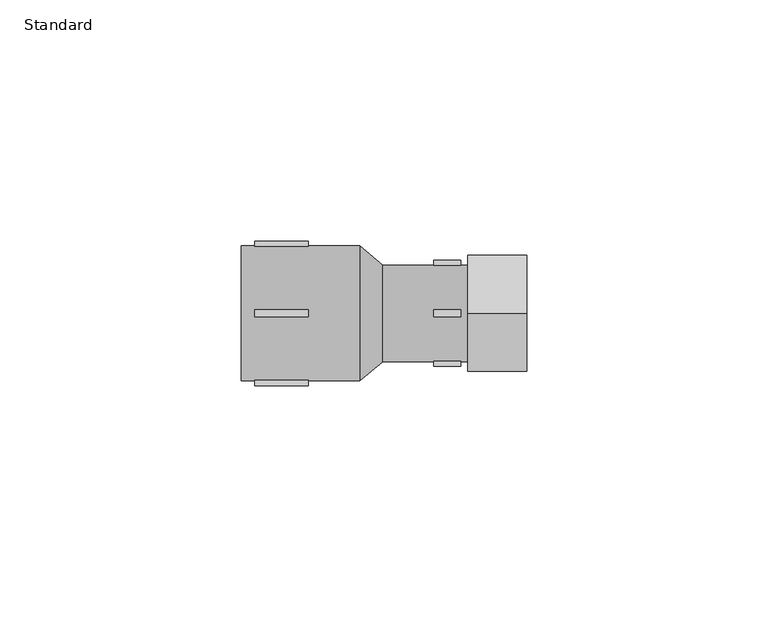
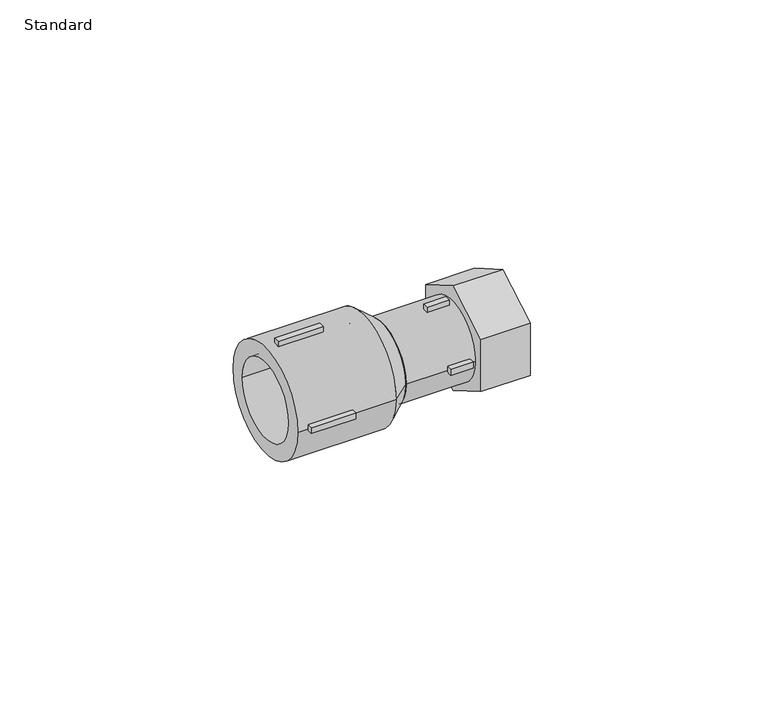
"""IFC4 building model written with IfcOpenShell, lengths in millimetres: pipe fitting geometry, EGB_VASEN_ PPR_Enlace tuerca loca : Standard."""

import ifcopenshell
import ifcopenshell.guid

model = None  # the IFC model being written
_history = None  # IfcOwnerHistory: only IFC2X3 demands one
_inside = {}  # id of a spatial element -> (the spatial element, [elements in it])
_under = {}  # id of a project, library or spatial element -> (it, [spatial elements below it])
_declared = {}  # id of a project -> (the project, [libraries it declares])
_typed = {}  # id of a type object -> (the type object, [elements of that type])
_made_of = {}  # id of a material, layer set ... -> (it, [elements and type objects made of it])


def new_model(schema):
    """Start an empty IFC model of exactly this schema.

    Asked for "IFC4X3", IfcOpenShell would pick the latest addendum, in which some entities
    have other attributes; the version numbers below select the first issue.
    IFC2X3 requires an IfcOwnerHistory on every rooted entity: one is made here for all.
    """
    global model, _history
    if schema == "IFC4X3":
        model = ifcopenshell.file(schema_version=(4, 3, 0, 0))
    else:
        model = ifcopenshell.file(schema=schema)
    _inside.clear()
    _under.clear()
    _declared.clear()
    _typed.clear()
    _made_of.clear()
    _history = None
    if model.schema == "IFC2X3":
        org = make("IfcOrganization", Name="unknown")
        user = make(
            "IfcPersonAndOrganization",
            ThePerson=make("IfcPerson", FamilyName="unknown"),
            TheOrganization=org,
        )
        app = make(
            "IfcApplication",
            ApplicationDeveloper=org,
            Version="unknown",
            ApplicationFullName="unknown",
            ApplicationIdentifier="unknown",
        )
        _history = make(
            "IfcOwnerHistory",
            OwningUser=user,
            OwningApplication=app,
            ChangeAction="ADDED",
            CreationDate=0,
        )
    return model


def make(cls, **values):
    """One entity of the class cls with the attributes given. An attribute that is None is left unset."""
    return model.create_entity(
        cls, **{name: value for name, value in values.items() if value is not None}
    )


def rooted(cls, **values):
    """An entity with a GlobalId (a new one), such as an element, a storey or a relation."""
    return make(cls, GlobalId=ifcopenshell.guid.new(), OwnerHistory=_history, **values)


def si_unit(unit_type, name, prefix=None):
    """IfcSIUnit, for example si_unit("LENGTHUNIT", "METRE", prefix="MILLI")."""
    return make("IfcSIUnit", UnitType=unit_type, Prefix=prefix, Name=name)


def assignment(units):
    """IfcUnitAssignment: the units of a project."""
    return None if units is None else make("IfcUnitAssignment", Units=units)


def point(xyz):
    """IfcCartesianPoint."""
    return None if xyz is None else make("IfcCartesianPoint", Coordinates=xyz)


def direction(xyz):
    """IfcDirection."""
    return None if xyz is None else make("IfcDirection", DirectionRatios=xyz)


def frame(location, z_axis=None, x_axis=None):
    """IfcAxis2Placement3D, a coordinate frame: its origin and axes. An axis left out is left unset."""
    return make(
        "IfcAxis2Placement3D",
        Location=point(location),
        Axis=direction(z_axis),
        RefDirection=direction(x_axis),
    )


def frame_2d(location, x_axis=None):
    """IfcAxis2Placement2D, a coordinate frame in the plane: its origin and x axis."""
    return make(
        "IfcAxis2Placement2D", Location=point(location), RefDirection=direction(x_axis)
    )


def origin():
    """The frame at (0, 0, 0) with its axes left unset."""
    return frame((0.0, 0.0, 0.0))


def origin_2d():
    """The frame at (0, 0) in the plane with its x axis left unset."""
    return frame_2d((0.0, 0.0))


def place(relative_to, where):
    """IfcLocalPlacement: puts the frame where relative to a parent placement (None: the world)."""
    return make(
        "IfcLocalPlacement", PlacementRelTo=relative_to, RelativePlacement=where
    )


def context(
    kind, dimensions, precision=None, world=None, true_north=None, identifier=None
):
    """IfcGeometricRepresentationContext, for example the 3D "Model" context."""
    return make(
        "IfcGeometricRepresentationContext",
        ContextIdentifier=identifier,
        ContextType=kind,
        CoordinateSpaceDimension=dimensions,
        Precision=precision,
        WorldCoordinateSystem=world,
        TrueNorth=true_north,
    )


def project(units=None, contexts=None):
    """IfcProject with its units and contexts."""
    return rooted(
        "IfcProject",
        Name="project",
        RepresentationContexts=contexts,
        UnitsInContext=assignment(units),
    )


def spatial(cls, under=None, at=None, **own):
    """A site, building, storey or space (cls), placed at a placement, below another one or the project."""
    s = rooted(cls, ObjectPlacement=at, **own)
    if under is not None:
        _under.setdefault(under.id(), (under, []))[1].append(s)
    return s


def polyline(points):
    """IfcPolyline through the points."""
    return make("IfcPolyline", Points=[point(p) for p in points])


def circle_curve(where, radius):
    """IfcCircle in the frame where."""
    return make("IfcCircle", Position=where, Radius=radius)


def trimmed(basis, trim1, trim2, sense, master):
    """IfcTrimmedCurve: the piece of a basis curve between two trims."""
    return make(
        "IfcTrimmedCurve",
        BasisCurve=basis,
        Trim1=trim1,
        Trim2=trim2,
        SenseAgreement=sense,
        MasterRepresentation=master,
    )


def segment(curve, same_sense, transition):
    """IfcCompositeCurveSegment."""
    return make(
        "IfcCompositeCurveSegment",
        Transition=transition,
        SameSense=same_sense,
        ParentCurve=curve,
    )


def composite_curve(segments, self_intersect=None):
    """IfcCompositeCurve: segments joined end to end."""
    return make("IfcCompositeCurve", Segments=segments, SelfIntersect=self_intersect)


def outline(outer, holes=None, kind="AREA"):
    """IfcArbitraryClosedProfileDef: a profile drawn as a closed curve; with holes, ...WithVoids."""
    if holes is None:
        return make("IfcArbitraryClosedProfileDef", ProfileType=kind, OuterCurve=outer)
    return make(
        "IfcArbitraryProfileDefWithVoids",
        ProfileType=kind,
        OuterCurve=outer,
        InnerCurves=holes,
    )


def extrude(swept, where, along, depth):
    """IfcExtrudedAreaSolid: the profile swept, set in the frame where, extruded along a direction by depth."""
    return make(
        "IfcExtrudedAreaSolid",
        SweptArea=swept,
        Position=where,
        ExtrudedDirection=direction(along),
        Depth=depth,
    )


def shape(context_of_items, identifier, shape_type, items):
    """IfcShapeRepresentation: the items that make up one representation, for example the "Body"."""
    return make(
        "IfcShapeRepresentation",
        ContextOfItems=context_of_items,
        RepresentationIdentifier=identifier,
        RepresentationType=shape_type,
        Items=items,
    )


def source(mapping_origin, context_of_items, identifier, shape_type, items):
    """IfcRepresentationMap: a shape defined once, which mapped items show again and again."""
    return make(
        "IfcRepresentationMap",
        MappingOrigin=mapping_origin,
        MappedRepresentation=shape(context_of_items, identifier, shape_type, items),
    )


def transform(
    local_origin,
    x_axis=None,
    y_axis=None,
    z_axis=None,
    scale=None,
    scale2=None,
    scale3=None,
    uniform=True,
):
    """IfcCartesianTransformationOperator3D, or its non-uniform kind. x_axis, y_axis, z_axis: its Axis1, 2, 3."""
    if uniform:
        return make(
            "IfcCartesianTransformationOperator3D",
            Axis1=direction(x_axis),
            Axis2=direction(y_axis),
            LocalOrigin=point(local_origin),
            Scale=scale,
            Axis3=direction(z_axis),
        )
    return make(
        "IfcCartesianTransformationOperator3DnonUniform",
        Axis1=direction(x_axis),
        Axis2=direction(y_axis),
        LocalOrigin=point(local_origin),
        Scale=scale,
        Axis3=direction(z_axis),
        Scale2=scale2,
        Scale3=scale3,
    )


def mapped(mapping_source, mapping_target):
    """IfcMappedItem: shows the shape of a source again, moved by a transform."""
    return make(
        "IfcMappedItem", MappingSource=mapping_source, MappingTarget=mapping_target
    )


def made_of(thing, what):
    """Note that an element or type object is made of a material, layer set ...; save() writes the relation."""
    if what is not None:
        _made_of.setdefault(what.id(), (what, []))[1].append(thing)
    return thing


def element(
    cls,
    number,
    at=None,
    inside=None,
    cuts=None,
    type_object=None,
    material=None,
    context=None,
    identifier="Body",
    shape_type=None,
    held_by="IfcProductDefinitionShape",
    body=None,
    shapes=None,
    **own,
):
    """One element of the class cls, such as IfcWall. Its Tag is "e" and its number.

    at: its placement. inside: the storey or other place that contains it. cuts: it is an
    opening in that element (IfcRelVoidsElement). A single representation is given by context,
    identifier, shape_type and body (its items); several are given by shapes. held_by: the class
    of the entity that holds the representations. save() writes the other relations.
    """
    e = rooted(cls, Tag="e%d" % number, ObjectPlacement=at, **own)
    if body is not None:
        shapes = [shape(context, identifier, shape_type, body)]
    if shapes is not None:
        e.Representation = make(held_by, Representations=shapes)
    if inside is not None:
        _inside.setdefault(inside.id(), (inside, []))[1].append(e)
    if cuts is not None:
        rooted(
            "IfcRelVoidsElement", RelatingBuildingElement=cuts, RelatedOpeningElement=e
        )
    if type_object is not None:
        _typed.setdefault(type_object.id(), (type_object, []))[1].append(e)
    return made_of(e, material)


def aggregate(whole, parts):
    """IfcRelAggregates: a whole, such as a stair, and the parts it consists of."""
    return rooted("IfcRelAggregates", RelatingObject=whole, RelatedObjects=parts)


def save(model, path):
    """Write the relations noted so far, then the file.

    IfcRelAggregates (storeys below a building ...), IfcRelContainedInSpatialStructure (elements
    in a storey), IfcRelDefinesByType, IfcRelAssociatesMaterial and IfcRelDeclares: one each for
    every whole, place, type object, material and project.
    """
    for whole, parts in _under.values():
        aggregate(whole, parts)
    for where, things in _inside.values():
        rooted(
            "IfcRelContainedInSpatialStructure",
            RelatedElements=things,
            RelatingStructure=where,
        )
    for kind, things in _typed.values():
        rooted("IfcRelDefinesByType", RelatedObjects=things, RelatingType=kind)
    for what, things in _made_of.values():
        rooted("IfcRelAssociatesMaterial", RelatedObjects=things, RelatingMaterial=what)
    for by, libraries in _declared.values():
        rooted("IfcRelDeclares", RelatingContext=by, RelatedDefinitions=libraries)
    model.write(path)


def plane_surface(at):
    """IfcPlane: the flat surface through the origin of the frame at, square to its z axis."""
    return make("IfcPlane", Position=at)


def revolved_surface(curve, axis_point, axis_direction):
    """IfcSurfaceOfRevolution: the curve turned about the line through axis_point along axis_direction."""
    return make(
        "IfcSurfaceOfRevolution",
        SweptCurve=make("IfcArbitraryOpenProfileDef", ProfileType="CURVE", Curve=curve),
        AxisPosition=make("IfcAxis1Placement", Location=point(axis_point), Axis=direction(axis_direction)),
    )


def advanced_brep(points, edges, surfaces, faces):
    """IfcAdvancedBrep: a solid bounded by faces that lie on surfaces and meet in shared edges.

    An edge is (start, end): straight between two places in points (the first is 0);
    or (start, end, curve); or (start, end, curve, False) where it runs against its curve.
    A face is (place in surfaces, loops), or (place, loops, False) where it looks against
    its surface's normal. A loop lists edges by number (the first is 1), with a minus sign
    where the edge is run from its end to its start. The first loop is the outer one.
    """
    corners = [point(p) for p in points]
    vertices = [make("IfcVertexPoint", VertexGeometry=c) for c in corners]
    made = []
    for start, end, *more in edges:
        made.append(
            make(
                "IfcEdgeCurve",
                EdgeStart=vertices[start],
                EdgeEnd=vertices[end],
                EdgeGeometry=more[0] if more else make("IfcPolyline", Points=[corners[start], corners[end]]),
                SameSense=more[1] if len(more) > 1 else True,
            )
        )
    hull = []
    for where, loops, *sense in faces:
        bounds = []
        for j, loop in enumerate(loops):
            ring = [make("IfcOrientedEdge", EdgeElement=made[abs(k) - 1], Orientation=k > 0) for k in loop]
            bounds.append(
                make(
                    "IfcFaceOuterBound" if j == 0 else "IfcFaceBound",
                    Bound=make("IfcEdgeLoop", EdgeList=ring),
                    Orientation=True,
                )
            )
        hull.append(make("IfcAdvancedFace", Bounds=bounds, FaceSurface=surfaces[where], SameSense=sense[0] if sense else True))
    return make("IfcAdvancedBrep", Outer=make("IfcClosedShell", CfsFaces=hull))


def standard_cf2dfbcc(model_context):
    return source(origin(), model_context, "Body", "SolidModel", [
        extrude(outline(polyline([(0.0, 13.8564065), (12.0, 6.9282032), (12.0, -6.9282032), (0.0, -13.8564065), (-12.0, -6.9282032), (-12.0, 6.9282032), (0.0, 13.8564065)]), holes=[composite_curve([segment(trimmed(circle_curve(origin_2d(), 6.35), [point((6.35, 0.0))], [point((-6.35, 0.0))], True, "CARTESIAN"), True, "CONTINUOUS"), segment(trimmed(circle_curve(origin_2d(), 6.35), [point((-6.35, 0.0))], [point((6.35, 0.0))], True, "CARTESIAN"), True, "CONTINUOUS")], self_intersect=False)]), frame((20.0, 0.0, 0.0), z_axis=(1.0, 0.0, 0.0), x_axis=(0.0, 1.0, 0.0)), (0.0, 0.0, 1.0), 12.3333333),
        extrude(outline(polyline([(13.0, -0.75), (13.0, 0.75), (18.6, 0.75), (18.6, -0.75), (13.0, -0.75)])), frame((0.0, 0.0, 9.0), z_axis=(0.0, 0.0, 1.0), x_axis=(1.0, 0.0, 0.0)), (0.0, 0.0, 1.0), 2.0),
        extrude(outline(polyline([(13.0, -0.75), (13.0, 0.75), (18.6, 0.75), (18.6, -0.75), (13.0, -0.75)])), frame((0.0, 0.0, -11.0), z_axis=(0.0, 0.0, 1.0), x_axis=(1.0, 0.0, 0.0)), (0.0, 0.0, 1.0), 2.0),
        extrude(outline(polyline([(13.0, 9.0), (13.0, 11.0), (18.6, 11.0), (18.6, 9.0), (13.0, 9.0)])), frame((0.0, 0.0, -0.75), z_axis=(0.0, 0.0, 1.0), x_axis=(1.0, 0.0, 0.0)), (0.0, 0.0, 1.0), 1.5),
        extrude(outline(polyline([(13.0, -11.0), (13.0, -9.0), (18.6, -9.0), (18.6, -11.0), (13.0, -11.0)])), frame((0.0, 0.0, -0.75), z_axis=(0.0, 0.0, 1.0), x_axis=(1.0, 0.0, 0.0)), (0.0, 0.0, 1.0), 1.5),
        extrude(outline(polyline([(-13.0, 0.75), (-13.0, -0.75), (-24.2, -0.75), (-24.2, 0.75), (-13.0, 0.75)])), frame((0.0, 0.0, 13.0), z_axis=(0.0, 0.0, 1.0), x_axis=(1.0, 0.0, 0.0)), (0.0, 0.0, 1.0), 2.0),
        extrude(outline(polyline([(-13.0, 0.75), (-13.0, -0.75), (-24.2, -0.75), (-24.2, 0.75), (-13.0, 0.75)])), frame((0.0, 0.0, -15.0), z_axis=(0.0, 0.0, 1.0), x_axis=(1.0, 0.0, 0.0)), (0.0, 0.0, 1.0), 2.0),
        extrude(outline(polyline([(-13.0, 15.0), (-13.0, 13.0), (-24.2, 13.0), (-24.2, 15.0), (-13.0, 15.0)])), frame((0.0, 0.0, -0.75), z_axis=(0.0, 0.0, 1.0), x_axis=(1.0, 0.0, 0.0)), (0.0, 0.0, 1.0), 1.5),
        extrude(outline(polyline([(-13.0, -13.0), (-13.0, -15.0), (-24.2, -15.0), (-24.2, -13.0), (-13.0, -13.0)])), frame((0.0, 0.0, -0.75), z_axis=(0.0, 0.0, 1.0), x_axis=(1.0, 0.0, 0.0)), (0.0, 0.0, 1.0), 1.5),
        extrude(outline(composite_curve([segment(trimmed(circle_curve(origin_2d(), 10.0), [point((-10.0, 0.0))], [point((10.0, 0.0))], False, "CARTESIAN"), True, "CONTINUOUS"), segment(trimmed(circle_curve(origin_2d(), 10.0), [point((10.0, 0.0))], [point((-10.0, 0.0))], False, "CARTESIAN"), True, "CONTINUOUS")], self_intersect=False), holes=[composite_curve([segment(trimmed(circle_curve(origin_2d(), 6.0), [point((-6.0, 0.0))], [point((6.0, 0.0))], True, "CARTESIAN"), True, "CONTINUOUS"), segment(trimmed(circle_curve(origin_2d(), 6.0), [point((6.0, 0.0))], [point((-6.0, 0.0))], True, "CARTESIAN"), True, "CONTINUOUS")], self_intersect=False)]), frame((2.4, 0.0, 0.0), z_axis=(1.0, 0.0, 0.0), x_axis=(0.0, 1.0, 0.0)), (0.0, 0.0, 1.0), 17.6),
        extrude(outline(composite_curve([segment(trimmed(circle_curve(origin_2d(), 14.0), [point((-14.0, 0.0))], [point((14.0, 0.0))], False, "CARTESIAN"), True, "CONTINUOUS"), segment(trimmed(circle_curve(origin_2d(), 14.0), [point((14.0, 0.0))], [point((-14.0, 0.0))], False, "CARTESIAN"), True, "CONTINUOUS")], self_intersect=False), holes=[composite_curve([segment(trimmed(circle_curve(origin_2d(), 10.0), [point((-10.0, 0.0))], [point((10.0, 0.0))], True, "CARTESIAN"), True, "CONTINUOUS"), segment(trimmed(circle_curve(origin_2d(), 10.0), [point((10.0, 0.0))], [point((-10.0, 0.0))], True, "CARTESIAN"), True, "CONTINUOUS")], self_intersect=False)]), frame((-27.0, 0.0, 0.0), z_axis=(1.0, 0.0, 0.0), x_axis=(0.0, 1.0, 0.0)), (0.0, 0.0, 1.0), 24.6),
        advanced_brep(
        [(2.4, -10.0, 0.0), (2.4, 10.0, 0.0), (-2.4, -14.0, 0.0), (-2.4, 14.0, 0.0)],
        [
            (0, 1, circle_curve(frame((2.4, 0.0, 0.0), z_axis=(1.0, 0.0, 0.0), x_axis=(0.0, -1.0, 0.0)), 10.0)),
            (1, 0, circle_curve(frame((2.4, 0.0, 0.0), z_axis=(1.0, 0.0, 0.0), x_axis=(0.0, 1.0, 0.0)), 10.0)),
            (2, 3, circle_curve(frame((-2.4, 0.0, 0.0), z_axis=(-1.0, 0.0, 0.0), x_axis=(0.0, 1.0, 0.0)), 14.0)),
            (3, 2, circle_curve(frame((-2.4, 0.0, 0.0), z_axis=(-1.0, 0.0, 0.0), x_axis=(0.0, -1.0, 0.0)), 14.0)),
            (3, 1),
            (0, 2),
        ],
        [
            plane_surface(frame((2.4, 0.0, 0.0), z_axis=(1.0, 0.0, 0.0), x_axis=(0.0, 0.0, -1.0))),
            plane_surface(frame((-2.4, 0.0, 0.0), z_axis=(-1.0, 0.0, 0.0), x_axis=(0.0, 0.0, -1.0))),
            revolved_surface(polyline([(2.4000000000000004, -10.0, 0.0), (-2.4000000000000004, -14.0, 0.0)]), (14.4, 0.0, 0.0), (-1.0, 0.0, 0.0)),
            revolved_surface(polyline([(2.4000000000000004, 10.0, 0.0), (-2.4000000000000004, 14.0, 0.0)]), (14.4, 0.0, 0.0), (-1.0, 0.0, 0.0)),
        ],
        [
            (0, [[1, 2]]),
            (1, [[3, 4]]),
            (2, [[-4, 5, -1, 6]]),
            (3, [[-3, -6, -2, -5]]),
        ],
    ),
    ])


if __name__ == "__main__":
    model = new_model("IFC4")
    model_context = context("Model", 3, world=origin())
    ifc_project = project(units=[si_unit("LENGTHUNIT", "METRE", prefix="MILLI")], contexts=[model_context])
    site = spatial("IfcSite", under=ifc_project)
    building = spatial("IfcBuilding", under=site)
    placement = place(None, origin())
    standard_shape = standard_cf2dfbcc(model_context)
    element("IfcPipeFitting", 1, ObjectType="EGB_VASEN_ PPR_Enlace tuerca loca : Standard", at=placement, inside=building, context=model_context, shape_type="MappedRepresentation", body=[
        mapped(standard_shape, transform((0.0, 0.0, 0.0), x_axis=(1.0, 0.0, 0.0), y_axis=(0.0, 1.0, 0.0), z_axis=(0.0, 0.0, 1.0))),
    ])
    save(model, "model.ifc")
